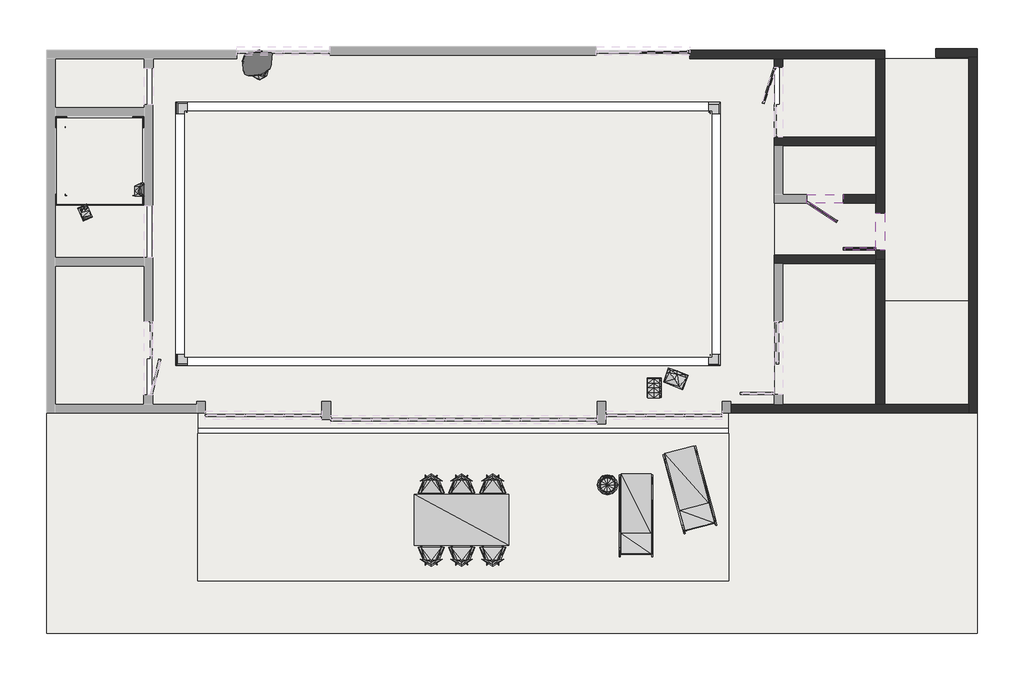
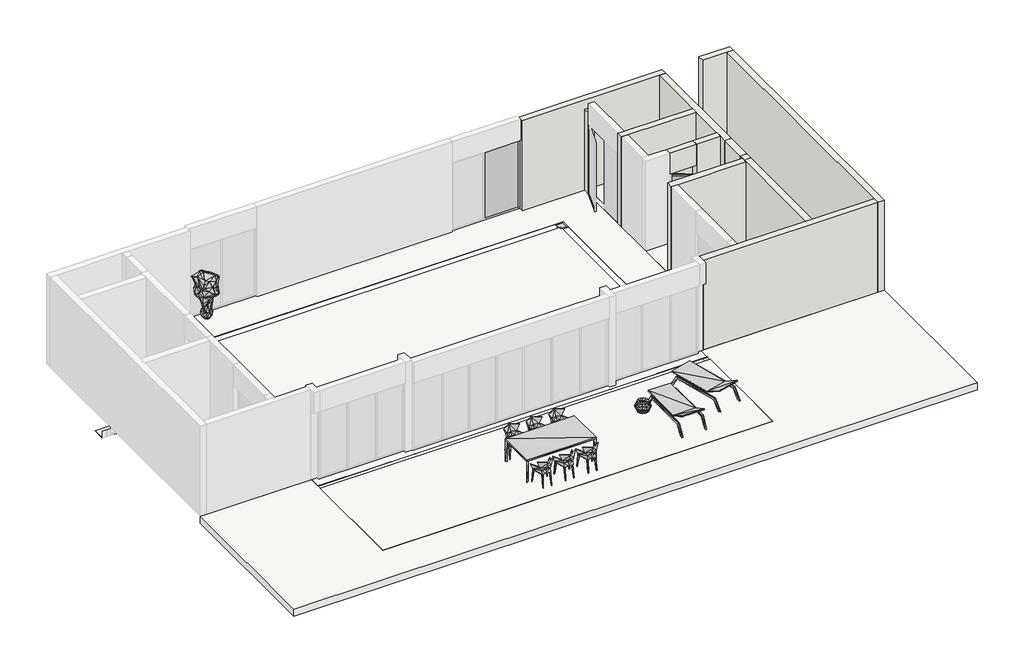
# One storey, part 3 of 3: 28 proxies, 15 geographic elements, 13 walls, 10 slabs, 9 members, 3 plates.
"""IFC4 building model written with IfcOpenShell, lengths in millimetres."""

from ifc_helpers import new_model, si_unit, frame, origin, place, context, project, spatial, polyline, outline, extrude, faceted_brep, transform, mapped, element, save
from components import generic_models_e9a23e22, generic_models_2f38e3b8, generic_models_225379f4, generic_models_951569f7, generic_models_6da5da0d, generic_models_c9809163, generic_models_70f451dc, geographic_element_de3b21ac, geographic_element_0adfae54, enscape_assetdefinition_basket_enscape_assetdefinition_b8fa298a, enscape_assetdefinition_dining_chair_06_enscape_9facff2e, enscape_assetdefinition_dining_chair_06_enscape_993760cc, enscape_assetdefinition_dining_table_08_enscape_2c41302c, enscape_assetdefinition_hanging_towel_02_enscape_f5c1a14c, enscape_assetdefinition_interior_plant_24_enscape_8646f427, enscape_assetdefinition_throw_04_enscape_assetdefinition_2e475fd9, enscape_assetdefinition_throw_enscape_assetdefinition_throw_fa2a812f, montante_rectangular_montante_cuadrado_50x50mm_acero_b99420d8, montante_rectangular_montante_cuadrado_50x50mm_acero_83e1ad39, montante_rectangular_montante_cuadrado_50x50mm_acero_28ed77df, montante_rectangular_montante_cuadrado_50x50mm_acero_05e5c9b3, montante_rectangular_montante_cuadrado_50x50mm_acero_9d536347, montante_rectangular_montante_cuadrado_50x50mm_acero_f065012c, montante_rectangular_montante_cuadrado_50x50mm_acero_bf3a267d, montante_rectangular_montante_cuadrado_50x50mm_acero_461c3306, panel_acristalado_panel_acristalado_1cm_9cf7acdf, panel_acristalado_panel_acristalado_1cm_23847091, panel_acristalado_panel_acristalado_1cm_07efc20a

model = new_model("IFC4")

# Units and contexts
model_context = context("Model", 3, world=origin())
ifc_project = project(units=[si_unit("LENGTHUNIT", "METRE", prefix="MILLI")], contexts=[model_context])

# Site, building, storey
site = spatial("IfcSite", under=ifc_project)
building = spatial("IfcBuilding", under=site)
storey = spatial("IfcBuildingStorey", under=building, Name="1_NPlaya", Elevation=0.0)

# Proxies
placement = place(None, origin())
generic_models_shape = generic_models_e9a23e22(model_context)
element("IfcBuildingElementProxy", 1, Name="ROSA GRES_116 : Pieza 116_Tresor_Java_Anti-Slip", ObjectType="ROSA GRES_116 : Pieza 116_Tresor_Java_Anti-Slip", at=placement, inside=storey, context=model_context, shape_type="MappedRepresentation", body=[
    mapped(generic_models_shape, transform((2145.5359152, 9875.0036092, -1319.9734118), x_axis=(0.0, 1.0, 0.0), y_axis=(-1.0, 0.0, 0.0), z_axis=(0.0, 0.0, 1.0))),
])
generic_models_2_shape = generic_models_2f38e3b8(model_context)
element("IfcBuildingElementProxy", 2, Name="ROSA GRES_115 : Pieza 115_Tresor_Java_Anti-Slip", ObjectType="ROSA GRES_115 : Pieza 115_Tresor_Java_Anti-Slip", at=placement, inside=storey, context=model_context, shape_type="MappedRepresentation", body=[
    mapped(generic_models_2_shape, transform((2145.5284896, 9874.9770206, -1069.9734114), x_axis=(0.0, 1.0, 0.0), y_axis=(-1.0, 0.0, 0.0), z_axis=(0.0, 0.0, 1.0))),
])
generic_models_3_shape = generic_models_225379f4(model_context)
element("IfcBuildingElementProxy", 3, Name="ROSA GRES_DL1 : Pieza DL1_Tresor_Java_Anti-Slip", ObjectType="ROSA GRES_DL1 : Pieza DL1_Tresor_Java_Anti-Slip", at=placement, inside=storey, context=model_context, shape_type="MappedRepresentation", body=[
    mapped(generic_models_3_shape, transform((7870.5093267, 7513.7270206, -239.4413919), x_axis=(0.0, 1.0, 0.0), y_axis=(-1.0, 0.0, 0.0), z_axis=(0.0, 0.0, 1.0))),
])
element("IfcBuildingElementProxy", 4, Name="ROSA GRES_DL1 : Pieza DL1_Tresor_Java_Anti-Slip", ObjectType="ROSA GRES_DL1 : Pieza DL1_Tresor_Java_Anti-Slip", at=placement, inside=storey, context=model_context, shape_type="MappedRepresentation", body=[
    mapped(generic_models_3_shape, transform((8170.5093267, 7816.7270206, -461.9413919), x_axis=(0.0, 1.0, 0.0), y_axis=(-1.0, 0.0, 0.0), z_axis=(0.0, 0.0, 1.0))),
])
element("IfcBuildingElementProxy", 5, Name="ROSA GRES_DL1 : Pieza DL1_Tresor_Java_Anti-Slip", ObjectType="ROSA GRES_DL1 : Pieza DL1_Tresor_Java_Anti-Slip", at=placement, inside=storey, context=model_context, shape_type="MappedRepresentation", body=[
    mapped(generic_models_3_shape, transform((8470.5093267, 8116.7270206, -686.9413919), x_axis=(0.0, 1.0, 0.0), y_axis=(-1.0, 0.0, 0.0), z_axis=(0.0, 0.0, 1.0))),
])
element("IfcBuildingElementProxy", 6, Name="ROSA GRES_DL1 : Pieza DL1_Tresor_Java_Anti-Slip", ObjectType="ROSA GRES_DL1 : Pieza DL1_Tresor_Java_Anti-Slip", at=placement, inside=storey, context=model_context, shape_type="MappedRepresentation", body=[
    mapped(generic_models_3_shape, transform((8770.5093267, 8421.2270206, -911.9413919), x_axis=(0.0, 1.0, 0.0), y_axis=(-1.0, 0.0, 0.0), z_axis=(0.0, 0.0, 1.0))),
])
element("IfcBuildingElementProxy", 7, Name="ROSA GRES_DL1 : Pieza DL1_Tresor_Java_Anti-Slip", ObjectType="ROSA GRES_DL1 : Pieza DL1_Tresor_Java_Anti-Slip", at=placement, inside=storey, context=model_context, shape_type="MappedRepresentation", body=[
    mapped(generic_models_3_shape, transform((9070.5093267, 8716.7270206, -1123.0), x_axis=(0.0, 1.0, 0.0), y_axis=(-1.0, 0.0, 0.0), z_axis=(0.0, 0.0, 1.0))),
])
generic_models_4_shape = generic_models_951569f7(model_context)
element("IfcBuildingElementProxy", 8, Name="ROSA GRES_DL1 : Pieza DL1_Tresor_Java_Anti-Slip", ObjectType="ROSA GRES_DL1 : Pieza DL1_Tresor_Java_Anti-Slip", at=placement, inside=storey, context=model_context, shape_type="MappedRepresentation", body=[
    mapped(generic_models_4_shape, transform((6870.5093267, 7513.7270206, -239.4413919), x_axis=(0.0, 1.0, 0.0), y_axis=(-1.0, 0.0, 0.0), z_axis=(0.0, 0.0, 1.0))),
])
element("IfcBuildingElementProxy", 9, Name="ROSA GRES_DL1 : Pieza DL1_Tresor_Java_Anti-Slip", ObjectType="ROSA GRES_DL1 : Pieza DL1_Tresor_Java_Anti-Slip", at=placement, inside=storey, context=model_context, shape_type="MappedRepresentation", body=[
    mapped(generic_models_4_shape, transform((6570.5093267, 7816.7270206, -461.9413919), x_axis=(0.0, 1.0, 0.0), y_axis=(-1.0, 0.0, 0.0), z_axis=(0.0, 0.0, 1.0))),
])
element("IfcBuildingElementProxy", 10, Name="ROSA GRES_DL1 : Pieza DL1_Tresor_Java_Anti-Slip", ObjectType="ROSA GRES_DL1 : Pieza DL1_Tresor_Java_Anti-Slip", at=placement, inside=storey, context=model_context, shape_type="MappedRepresentation", body=[
    mapped(generic_models_4_shape, transform((6270.5093267, 8116.7270206, -686.9413919), x_axis=(0.0, 1.0, 0.0), y_axis=(-1.0, 0.0, 0.0), z_axis=(0.0, 0.0, 1.0))),
])
element("IfcBuildingElementProxy", 11, Name="ROSA GRES_DL1 : Pieza DL1_Tresor_Java_Anti-Slip", ObjectType="ROSA GRES_DL1 : Pieza DL1_Tresor_Java_Anti-Slip", at=placement, inside=storey, context=model_context, shape_type="MappedRepresentation", body=[
    mapped(generic_models_4_shape, transform((5970.5093267, 8421.2270206, -911.9413919), x_axis=(0.0, 1.0, 0.0), y_axis=(-1.0, 0.0, 0.0), z_axis=(0.0, 0.0, 1.0))),
])
element("IfcBuildingElementProxy", 12, Name="ROSA GRES_DL1 : Pieza DL1_Tresor_Java_Anti-Slip", ObjectType="ROSA GRES_DL1 : Pieza DL1_Tresor_Java_Anti-Slip", at=placement, inside=storey, context=model_context, shape_type="MappedRepresentation", body=[
    mapped(generic_models_4_shape, transform((5670.5093267, 8716.7270206, -1123.0), x_axis=(0.0, 1.0, 0.0), y_axis=(-1.0, 0.0, 0.0), z_axis=(0.0, 0.0, 1.0))),
])
generic_models_5_shape = generic_models_6da5da0d(model_context)
element("IfcBuildingElementProxy", 13, Name="ROSA GRES_245 EF_Colocación en plano : Pieza 245 EF_Tresor_Java_Anti-Slip", ObjectType="ROSA GRES_245 EF_Colocación en plano : Pieza 245 EF_Tresor_Java_Anti-Slip", at=placement, inside=storey, context=model_context, shape_type="MappedRepresentation", body=[
    mapped(generic_models_5_shape, transform((13675.1591842, 7226.6819552, 0.0), x_axis=(0.0, -1.0, 0.0), y_axis=(1.0, 0.0, 0.0), z_axis=(0.0, 0.0, 1.0))),
])
element("IfcBuildingElementProxy", 14, Name="ROSA GRES_245 EF_Colocación en plano : Pieza 245 EF_Tresor_Java_Anti-Slip", ObjectType="ROSA GRES_245 EF_Colocación en plano : Pieza 245 EF_Tresor_Java_Anti-Slip", at=placement, inside=storey, context=model_context, shape_type="MappedRepresentation", body=[
    mapped(generic_models_5_shape, transform((1063.4642613, 7226.6819552, 0.0), x_axis=(-1.0, 0.0, 0.0), y_axis=(0.0, -1.0, 0.0), z_axis=(0.0, 0.0, 1.0))),
])
element("IfcBuildingElementProxy", 15, Name="ROSA GRES_245 EF_Colocación en plano : Pieza 245 EF_Tresor_Java_Anti-Slip", ObjectType="ROSA GRES_245 EF_Colocación en plano : Pieza 245 EF_Tresor_Java_Anti-Slip", at=placement, inside=storey, context=model_context, shape_type="MappedRepresentation", body=[
    mapped(generic_models_5_shape, transform((1063.4642613, 13340.147086, 0.0), x_axis=(0.0, 1.0, 0.0), y_axis=(-1.0, 0.0, 0.0), z_axis=(0.0, 0.0, 1.0))),
])
element("IfcBuildingElementProxy", 16, Name="ROSA GRES_245 EF_Colocación en plano : Pieza 245 EF_Tresor_Java_Anti-Slip", ObjectType="ROSA GRES_245 EF_Colocación en plano : Pieza 245 EF_Tresor_Java_Anti-Slip", at=placement, inside=storey, context=model_context, shape_type="MappedRepresentation", body=[
    mapped(generic_models_5_shape, transform((13676.7593267, 13339.522086, 0.0), x_axis=(1.0, 0.0, 0.0), y_axis=(0.0, 1.0, 0.0), z_axis=(0.0, 0.0, 1.0))),
])
element("IfcBuildingElementProxy", 17, Name="ROSA GRES_245 EF_Colocación en plano : Pieza 245 EF_Tresor_Java_Anti-Slip", ObjectType="ROSA GRES_245 EF_Colocación en plano : Pieza 245 EF_Tresor_Java_Anti-Slip", at=placement, inside=storey, context=model_context, shape_type="MappedRepresentation", body=[
    mapped(generic_models_5_shape, transform((-1734.4906752, 13012.2270206, 0.0), x_axis=(0.0, 1.0, 0.0), y_axis=(-1.0, 0.0, 0.0), z_axis=(0.0, 0.0, 1.0))),
])
element("IfcBuildingElementProxy", 18, Name="ROSA GRES_245 EF_Colocación en plano : Pieza 245 EF_Tresor_Java_Anti-Slip", ObjectType="ROSA GRES_245 EF_Colocación en plano : Pieza 245 EF_Tresor_Java_Anti-Slip", at=placement, inside=storey, context=model_context, shape_type="MappedRepresentation", body=[
    mapped(generic_models_5_shape, transform((323.5093238, 10940.2270335, 0.0), x_axis=(0.0, -1.0, 0.0), y_axis=(1.0, 0.0, 0.0), z_axis=(0.0, 0.0, 1.0))),
])
generic_models_6_shape = generic_models_c9809163(model_context)
element("IfcBuildingElementProxy", 19, Name="ROSA GRES_245 EF_Colocación en plano : Pieza 245 EF_Tresor_Java_Anti-Slip", ObjectType="ROSA GRES_245 EF_Colocación en plano : Pieza 245 EF_Tresor_Java_Anti-Slip", at=placement, inside=storey, context=model_context, shape_type="MappedRepresentation", body=[
    mapped(generic_models_6_shape, transform((-1734.4906752, 10940.2270335, 0.0), x_axis=(0.0, -1.0, 0.0), y_axis=(1.0, 0.0, 0.0), z_axis=(0.0, 0.0, 1.0))),
])
element("IfcBuildingElementProxy", 20, Name="ROSA GRES_245 EF_Colocación en plano : Pieza 245 EF_Tresor_Java_Anti-Slip", ObjectType="ROSA GRES_245 EF_Colocación en plano : Pieza 245 EF_Tresor_Java_Anti-Slip", at=placement, inside=storey, context=model_context, shape_type="MappedRepresentation", body=[
    mapped(generic_models_6_shape, transform((323.5093238, 13012.2270206, 0.0), x_axis=(0.0, 1.0, 0.0), y_axis=(-1.0, 0.0, 0.0), z_axis=(0.0, 0.0, 1.0))),
])
generic_models_7_shape = generic_models_70f451dc(model_context)
element("IfcBuildingElementProxy", 21, Name="ROSA GRES_040A (corte) : Pieza 040A_Tresor_Java_Anti-Slip", ObjectType="ROSA GRES_040A (corte) : Pieza 040A_Tresor_Java_Anti-Slip", at=placement, inside=storey, context=model_context, shape_type="MappedRepresentation", body=[
    mapped(generic_models_7_shape, transform((6270.5093267, 8433.7270206, -687.4462632), x_axis=(-1.0, 0.0, 0.0), y_axis=(0.0, 1.0, 0.0), z_axis=(0.0, 0.0, -1.0))),
])
element("IfcBuildingElementProxy", 22, Name="ROSA GRES_040A (corte) : Pieza 040A_Tresor_Java_Anti-Slip", ObjectType="ROSA GRES_040A (corte) : Pieza 040A_Tresor_Java_Anti-Slip", at=placement, inside=storey, context=model_context, shape_type="MappedRepresentation", body=[
    mapped(generic_models_7_shape, transform((5970.5093267, 8738.2270206, -912.4462632), x_axis=(-1.0, 0.0, 0.0), y_axis=(0.0, 1.0, 0.0), z_axis=(0.0, 0.0, -1.0))),
])
element("IfcBuildingElementProxy", 23, Name="ROSA GRES_040A (corte) : Pieza 040A_Tresor_Java_Anti-Slip", ObjectType="ROSA GRES_040A (corte) : Pieza 040A_Tresor_Java_Anti-Slip", at=placement, inside=storey, context=model_context, shape_type="MappedRepresentation", body=[
    mapped(generic_models_7_shape, transform((6570.5093267, 8133.7270206, -462.4462632), x_axis=(-1.0, 0.0, 0.0), y_axis=(0.0, 1.0, 0.0), z_axis=(0.0, 0.0, -1.0))),
])
element("IfcBuildingElementProxy", 24, Name="ROSA GRES_040A (corte) : Pieza 040A_Tresor_Java_Anti-Slip", ObjectType="ROSA GRES_040A (corte) : Pieza 040A_Tresor_Java_Anti-Slip", at=placement, inside=storey, context=model_context, shape_type="MappedRepresentation", body=[
    mapped(generic_models_7_shape, transform((6870.5093267, 7830.7270206, -239.9462632), x_axis=(-1.0, 0.0, 0.0), y_axis=(0.0, 1.0, 0.0), z_axis=(0.0, 0.0, -1.0))),
])
element("IfcBuildingElementProxy", 25, Name="ROSA GRES_040A (corte) : Pieza 040A_Tresor_Java_Anti-Slip", ObjectType="ROSA GRES_040A (corte) : Pieza 040A_Tresor_Java_Anti-Slip", at=placement, inside=storey, context=model_context, shape_type="MappedRepresentation", body=[
    mapped(generic_models_7_shape, transform((7870.5718267, 7830.7895206, -238.6962632), x_axis=(0.0, 1.0, 0.0), y_axis=(1.0, 0.0, 0.0), z_axis=(0.0, 0.0, -1.0))),
])
element("IfcBuildingElementProxy", 26, Name="ROSA GRES_040A (corte) : Pieza 040A_Tresor_Java_Anti-Slip", ObjectType="ROSA GRES_040A (corte) : Pieza 040A_Tresor_Java_Anti-Slip", at=placement, inside=storey, context=model_context, shape_type="MappedRepresentation", body=[
    mapped(generic_models_7_shape, transform((8170.5718267, 8134.4145206, -461.1962632), x_axis=(0.0, 1.0, 0.0), y_axis=(1.0, 0.0, 0.0), z_axis=(0.0, 0.0, -1.0))),
])
element("IfcBuildingElementProxy", 27, Name="ROSA GRES_040A (corte) : Pieza 040A_Tresor_Java_Anti-Slip", ObjectType="ROSA GRES_040A (corte) : Pieza 040A_Tresor_Java_Anti-Slip", at=placement, inside=storey, context=model_context, shape_type="MappedRepresentation", body=[
    mapped(generic_models_7_shape, transform((8470.8843267, 8433.7913797, -686.1962632), x_axis=(0.0, 1.0, 0.0), y_axis=(1.0, 0.0, 0.0), z_axis=(0.0, 0.0, -1.0))),
])
element("IfcBuildingElementProxy", 28, Name="ROSA GRES_040A (corte) : Pieza 040A_Tresor_Java_Anti-Slip", ObjectType="ROSA GRES_040A (corte) : Pieza 040A_Tresor_Java_Anti-Slip", at=placement, inside=storey, context=model_context, shape_type="MappedRepresentation", body=[
    mapped(generic_models_7_shape, transform((8770.6377738, 8738.4625772, -911.1962632), x_axis=(0.0, 1.0, 0.0), y_axis=(1.0, 0.0, 0.0), z_axis=(0.0, 0.0, -1.0))),
])

# Geographic elements
geographic_element_shape = geographic_element_de3b21ac(model_context)
element("IfcGeographicElement", 29, ObjectType="Enscape AssetDefinition - Decoration Collection 02 : Enscape AssetDefinition - Decoration Collection 02", at=placement, inside=storey, context=model_context, shape_type="MappedRepresentation", body=[
    mapped(geographic_element_shape, transform((-1043.7026656, 10778.6718446, 0.0), x_axis=(-0.3746065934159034, 0.927183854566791, 0.0), y_axis=(-0.927183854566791, -0.3746065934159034, 0.0), z_axis=(0.0, 0.0, 1.0))),
])
geographic_element_2_shape = geographic_element_0adfae54(model_context)
element("IfcGeographicElement", 30, ObjectType="Enscape AssetDefinition - Sunbed : Enscape AssetDefinition - Sunbed", at=placement, inside=storey, context=model_context, shape_type="MappedRepresentation", body=[
    mapped(geographic_element_2_shape, transform((11720.5093267, 3748.7270262, 0.0), x_axis=(-1.0, 0.0, 0.0), y_axis=(0.0, -1.0, 0.0), z_axis=(0.0, 0.0, 1.0))),
])
element("IfcGeographicElement", 31, ObjectType="Enscape AssetDefinition - Sunbed : Enscape AssetDefinition - Sunbed", at=placement, inside=storey, context=model_context, shape_type="MappedRepresentation", body=[
    mapped(geographic_element_2_shape, transform((12968.5093267, 4348.7270262, 0.0), x_axis=(-0.9659258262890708, -0.2588190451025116, 0.0), y_axis=(0.2588190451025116, -0.9659258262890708, 0.0), z_axis=(0.0, 0.0, 1.0))),
])
enscape_assetdefinition_basket_enscape_assetdefinition_shape = enscape_assetdefinition_basket_enscape_assetdefinition_b8fa298a(model_context)
element("IfcGeographicElement", 32, ObjectType="Enscape AssetDefinition - Basket : Enscape AssetDefinition - Basket", at=placement, inside=storey, context=model_context, shape_type="MappedRepresentation", body=[
    mapped(enscape_assetdefinition_basket_enscape_assetdefinition_shape, transform((11060.5093267, 4468.7270262, 0.0), x_axis=(1.0, 0.0, 0.0), y_axis=(0.0, 1.0, 0.0), z_axis=(0.0, 0.0, 1.0))),
])
enscape_assetdefinition_dining_chair_06_enscape_shape = enscape_assetdefinition_dining_chair_06_enscape_9facff2e(model_context)
element("IfcGeographicElement", 33, ObjectType="Enscape AssetDefinition - Dining Chair 06 : Enscape AssetDefinition - Dining Chair 06", at=placement, inside=storey, context=model_context, shape_type="MappedRepresentation", body=[
    mapped(enscape_assetdefinition_dining_chair_06_enscape_shape, transform((8400.5093267, 4468.7270262, 0.0), x_axis=(1.0, 0.0, 0.0), y_axis=(0.0, 1.0, 0.0), z_axis=(0.0, 0.0, 1.0))),
])
element("IfcGeographicElement", 34, ObjectType="Enscape AssetDefinition - Dining Chair 06 : Enscape AssetDefinition - Dining Chair 06", at=placement, inside=storey, context=model_context, shape_type="MappedRepresentation", body=[
    mapped(enscape_assetdefinition_dining_chair_06_enscape_shape, transform((7680.5093267, 4468.7270262, 0.0), x_axis=(1.0, 0.0, 0.0), y_axis=(0.0, 1.0, 0.0), z_axis=(0.0, 0.0, 1.0))),
])
element("IfcGeographicElement", 35, ObjectType="Enscape AssetDefinition - Dining Chair 06 : Enscape AssetDefinition - Dining Chair 06", at=placement, inside=storey, context=model_context, shape_type="MappedRepresentation", body=[
    mapped(enscape_assetdefinition_dining_chair_06_enscape_shape, transform((6975.7093267, 4468.7270262, 0.0), x_axis=(1.0, 0.0, 0.0), y_axis=(0.0, 1.0, 0.0), z_axis=(0.0, 0.0, 1.0))),
])
enscape_assetdefinition_dining_chair_06_enscape_2_shape = enscape_assetdefinition_dining_chair_06_enscape_993760cc(model_context)
element("IfcGeographicElement", 36, ObjectType="Enscape AssetDefinition - Dining Chair 06 : Enscape AssetDefinition - Dining Chair 06", at=placement, inside=storey, context=model_context, shape_type="MappedRepresentation", body=[
    mapped(enscape_assetdefinition_dining_chair_06_enscape_2_shape, transform((8400.5093267, 2828.7270262, 0.0), x_axis=(1.0, 0.0, 0.0), y_axis=(0.0, 1.0, 0.0), z_axis=(0.0, 0.0, 1.0))),
])
element("IfcGeographicElement", 37, ObjectType="Enscape AssetDefinition - Dining Chair 06 : Enscape AssetDefinition - Dining Chair 06", at=placement, inside=storey, context=model_context, shape_type="MappedRepresentation", body=[
    mapped(enscape_assetdefinition_dining_chair_06_enscape_2_shape, transform((7680.5093267, 2828.7270262, 0.0), x_axis=(1.0, 0.0, 0.0), y_axis=(0.0, 1.0, 0.0), z_axis=(0.0, 0.0, 1.0))),
])
element("IfcGeographicElement", 38, ObjectType="Enscape AssetDefinition - Dining Chair 06 : Enscape AssetDefinition - Dining Chair 06", at=placement, inside=storey, context=model_context, shape_type="MappedRepresentation", body=[
    mapped(enscape_assetdefinition_dining_chair_06_enscape_2_shape, transform((6975.7093267, 2828.7270262, 0.0), x_axis=(1.0, 0.0, 0.0), y_axis=(0.0, 1.0, 0.0), z_axis=(0.0, 0.0, 1.0))),
])
enscape_assetdefinition_dining_table_08_enscape_shape = enscape_assetdefinition_dining_table_08_enscape_2c41302c(model_context)
element("IfcGeographicElement", 39, ObjectType="Enscape AssetDefinition - Dining Table 08 : Enscape AssetDefinition - Dining Table 08", at=placement, inside=storey, context=model_context, shape_type="MappedRepresentation", body=[
    mapped(enscape_assetdefinition_dining_table_08_enscape_shape, transform((7679.5093267, 3653.7270241, 0.0), x_axis=(0.0, 1.0, 0.0), y_axis=(-1.0, 0.0, 0.0), z_axis=(0.0, 0.0, 1.0))),
])
enscape_assetdefinition_hanging_towel_02_enscape_shape = enscape_assetdefinition_hanging_towel_02_enscape_f5c1a14c(model_context)
element("IfcGeographicElement", 40, ObjectType="Enscape AssetDefinition - Hanging Towel 02 : Enscape AssetDefinition - Hanging Towel 02", at=placement, inside=storey, context=model_context, shape_type="MappedRepresentation", body=[
    mapped(enscape_assetdefinition_hanging_towel_02_enscape_shape, transform((333.5093229, 11320.7219857, 1500.0), x_axis=(0.0, -1.0, 0.0), y_axis=(1.0, 0.0, 0.0), z_axis=(0.0, 0.0, 1.0))),
])
enscape_assetdefinition_interior_plant_24_enscape_shape = enscape_assetdefinition_interior_plant_24_enscape_8646f427(model_context)
element("IfcGeographicElement", 41, ObjectType="Enscape AssetDefinition - Interior Plant 24 : Enscape AssetDefinition - Interior Plant 24", at=placement, inside=storey, context=model_context, shape_type="MappedRepresentation", body=[
    mapped(enscape_assetdefinition_interior_plant_24_enscape_shape, transform((2951.3996279, 14259.8509934, 0.0), x_axis=(-0.8885509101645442, -0.45877802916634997, 0.0), y_axis=(0.45877802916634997, -0.8885509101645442, 0.0), z_axis=(0.0, 0.0, 1.0))),
])
enscape_assetdefinition_throw_04_enscape_assetdefinition_shape = enscape_assetdefinition_throw_04_enscape_assetdefinition_2e475fd9(model_context)
element("IfcGeographicElement", 42, ObjectType="Enscape AssetDefinition - Throw 04 : Enscape AssetDefinition - Throw 04", at=placement, inside=storey, context=model_context, shape_type="MappedRepresentation", body=[
    mapped(enscape_assetdefinition_throw_04_enscape_assetdefinition_shape, transform((12140.5093267, 6713.727027, 0.0), x_axis=(-1.0, 0.0, 0.0), y_axis=(0.0, -1.0, 0.0), z_axis=(0.0, 0.0, 1.0))),
])
enscape_assetdefinition_throw_enscape_assetdefinition_throw_shape = enscape_assetdefinition_throw_enscape_assetdefinition_throw_fa2a812f(model_context)
element("IfcGeographicElement", 43, ObjectType="Enscape AssetDefinition - Throw : Enscape AssetDefinition - Throw", at=placement, inside=storey, context=model_context, shape_type="MappedRepresentation", body=[
    mapped(enscape_assetdefinition_throw_enscape_assetdefinition_throw_shape, transform((12628.7846367, 6923.7123143, 0.0), x_axis=(0.35836794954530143, 0.9335804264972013, 0.0), y_axis=(-0.9335804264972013, 0.35836794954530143, 0.0), z_axis=(0.0, 0.0, 1.0))),
])

# Members
montante_rectangular_montante_cuadrado_50x50mm_acero_shape = montante_rectangular_montante_cuadrado_50x50mm_acero_b99420d8(model_context)
element("IfcMember", 44, ObjectType="Montante rectangular : Montante cuadrado 50x50mm_Acero", at=placement, inside=storey, context=model_context, shape_type="MappedRepresentation", body=[
    mapped(montante_rectangular_montante_cuadrado_50x50mm_acero_shape, transform((12963.3610627, 14478.7270206, 0.0), x_axis=(1.0, 0.0, 0.0), y_axis=(0.0, -1.0, 0.0), z_axis=(0.0, 0.0, -1.0))),
])
element("IfcMember", 45, ObjectType="Montante rectangular : Montante cuadrado 50x50mm_Acero", at=placement, inside=storey, context=model_context, shape_type="MappedRepresentation", body=[
    mapped(montante_rectangular_montante_cuadrado_50x50mm_acero_shape, transform((16365.4609548, 10546.5720247, 0.0), x_axis=(0.8386705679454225, -0.5446390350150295, 0.0), y_axis=(-0.5446390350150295, -0.8386705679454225, 0.0), z_axis=(0.0, 0.0, -1.0))),
])
montante_rectangular_montante_cuadrado_50x50mm_acero_2_shape = montante_rectangular_montante_cuadrado_50x50mm_acero_83e1ad39(model_context)
element("IfcMember", 46, ObjectType="Montante rectangular : Montante cuadrado 50x50mm_Acero", at=placement, inside=storey, context=model_context, shape_type="MappedRepresentation", body=[
    mapped(montante_rectangular_montante_cuadrado_50x50mm_acero_2_shape, transform((14915.5093267, 14148.5060359, 2300.0), x_axis=(0.30901699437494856, 0.9510565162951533, 0.0), y_axis=(-0.9510565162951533, 0.30901699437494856, 0.0), z_axis=(0.0, 0.0, 1.0))),
])
montante_rectangular_montante_cuadrado_50x50mm_acero_3_shape = montante_rectangular_montante_cuadrado_50x50mm_acero_28ed77df(model_context)
element("IfcMember", 47, ObjectType="Montante rectangular : Montante cuadrado 50x50mm_Acero", at=placement, inside=storey, context=model_context, shape_type="MappedRepresentation", body=[
    mapped(montante_rectangular_montante_cuadrado_50x50mm_acero_3_shape, transform((16323.5274264, 10573.8039764, 2300.0), x_axis=(0.0, 0.0, 1.0), y_axis=(-0.5446390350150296, -0.8386705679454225, 0.0), z_axis=(0.8386705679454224, -0.5446390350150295, 0.0))),
])
montante_rectangular_montante_cuadrado_50x50mm_acero_4_shape = montante_rectangular_montante_cuadrado_50x50mm_acero_05e5c9b3(model_context)
element("IfcMember", 48, ObjectType="Montante rectangular : Montante cuadrado 50x50mm_Acero", at=placement, inside=storey, context=model_context, shape_type="MappedRepresentation", body=[
    mapped(montante_rectangular_montante_cuadrado_50x50mm_acero_4_shape, transform((16573.2510888, 9914.6760334, 2300.0), x_axis=(0.0, 0.0, 1.0), y_axis=(0.0, 1.0, 0.0), z_axis=(-1.0, 0.0, 0.0))),
])
montante_rectangular_montante_cuadrado_50x50mm_acero_5_shape = montante_rectangular_montante_cuadrado_50x50mm_acero_9d536347(model_context)
element("IfcMember", 49, ObjectType="Montante rectangular : Montante cuadrado 50x50mm_Acero", at=placement, inside=storey, context=model_context, shape_type="MappedRepresentation", body=[
    mapped(montante_rectangular_montante_cuadrado_50x50mm_acero_5_shape, transform((17230.5093243, 9914.6760334, 0.0), x_axis=(0.0, 0.0, -1.0), y_axis=(0.0, 1.0, 0.0), z_axis=(1.0, 0.0, 0.0))),
])
montante_rectangular_montante_cuadrado_50x50mm_acero_6_shape = montante_rectangular_montante_cuadrado_50x50mm_acero_f065012c(model_context)
element("IfcMember", 50, ObjectType="Montante rectangular : Montante cuadrado 50x50mm_Acero", at=placement, inside=storey, context=model_context, shape_type="MappedRepresentation", body=[
    mapped(montante_rectangular_montante_cuadrado_50x50mm_acero_6_shape, transform((16523.2510888, 9914.6760334, 0.0), x_axis=(-1.0, 0.0, 0.0), y_axis=(0.0, 1.0, 0.0), z_axis=(0.0, 0.0, -1.0))),
])
montante_rectangular_montante_cuadrado_50x50mm_acero_7_shape = montante_rectangular_montante_cuadrado_50x50mm_acero_bf3a267d(model_context)
element("IfcMember", 51, ObjectType="Montante rectangular : Montante cuadrado 50x50mm_Acero", at=placement, inside=storey, context=model_context, shape_type="MappedRepresentation", body=[
    mapped(montante_rectangular_montante_cuadrado_50x50mm_acero_7_shape, transform((17280.5093243, 9914.6760334, 2300.0), x_axis=(1.0, 0.0, 0.0), y_axis=(0.0, 1.0, 0.0), z_axis=(0.0, 0.0, 1.0))),
])
montante_rectangular_montante_cuadrado_50x50mm_acero_8_shape = montante_rectangular_montante_cuadrado_50x50mm_acero_461c3306(model_context)
element("IfcMember", 52, ObjectType="Montante rectangular : Montante cuadrado 50x50mm_Acero", at=placement, inside=storey, context=model_context, shape_type="MappedRepresentation", body=[
    mapped(montante_rectangular_montante_cuadrado_50x50mm_acero_8_shape, transform((14900.058477, 14100.9532101, 0.0), x_axis=(0.0, 0.0, -1.0), y_axis=(-0.9510565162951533, 0.30901699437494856, 0.0), z_axis=(0.30901699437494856, 0.9510565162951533, 0.0))),
])

# Plates
panel_acristalado_panel_acristalado_1cm_shape = panel_acristalado_panel_acristalado_1cm_9cf7acdf(model_context)
element("IfcPlate", 53, ObjectType="Panel acristalado : Panel acristalado 1cm", at=placement, inside=storey, context=model_context, shape_type="MappedRepresentation", body=[
    mapped(panel_acristalado_panel_acristalado_1cm_shape, transform((16021.606022, 10769.874029, 50.0), x_axis=(0.8386705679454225, -0.5446390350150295, 0.0), y_axis=(0.5446390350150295, 0.8386705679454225, 0.0), z_axis=(0.0, 0.0, 1.0))),
])
panel_acristalado_panel_acristalado_1cm_2_shape = panel_acristalado_panel_acristalado_1cm_23847091(model_context)
element("IfcPlate", 54, ObjectType="Panel acristalado : Panel acristalado 1cm", at=placement, inside=storey, context=model_context, shape_type="MappedRepresentation", body=[
    mapped(panel_acristalado_panel_acristalado_1cm_2_shape, transform((16901.8802065, 9914.6760334, 50.0), x_axis=(-1.0, 0.0, 0.0), y_axis=(0.0, -1.0, 0.0), z_axis=(0.0, 0.0, 1.0))),
])
panel_acristalado_panel_acristalado_1cm_3_shape = panel_acristalado_panel_acristalado_1cm_07efc20a(model_context)
element("IfcPlate", 55, ObjectType="Panel acristalado : Panel acristalado 1cm", at=placement, inside=storey, context=model_context, shape_type="MappedRepresentation", body=[
    mapped(panel_acristalado_panel_acristalado_1cm_3_shape, transform((12381.3610621, 14478.7270206, 50.0), x_axis=(1.0, 0.0, 0.0), y_axis=(0.0, 1.0, 0.0), z_axis=(0.0, 0.0, 1.0))),
])

# Slabs
element("IfcSlab", 56, ObjectType="Pieza 199_Patrón 1/3_Alma_Forest_Anti-Slip", at=placement, inside=storey, context=model_context, shape_type="SweptSolid", body=[
    extrude(outline(polyline([(2474.3909695, 14343.7270206), (2474.3909695, 14478.7270241), (4638.3909717, 14478.7270241), (4638.3909717, 14428.7270241), (10798.050338, 14428.7270241), (10798.050338, 14478.7270206), (12961.8610622, 14478.7270206), (12961.8610622, 14343.7270206), (14919.0093262, 14343.7270206), (14919.0093262, 14163.7270237), (14919.0093262, 6333.7270206), (13719.0093262, 6333.7270206), (13719.0093262, 6133.7270206), (13869.0093252, 6133.7270206), (13869.0093252, 5788.7270241), (13719.0093262, 5788.7270241), (10799.0093262, 5788.7270241), (4638.3909737, 5788.7270241), (1719.0093283, 5788.7270241), (1569.0093262, 5788.7270241), (1569.0093262, 6133.7270206), (1719.0093283, 6133.7270206), (1719.0093283, 6333.7270206), (519.0093262, 6333.7270206), (519.0093262, 6549.7270241), (519.0093262, 13277.7270206), (519.0093262, 14343.7270206), (2474.3909695, 14343.7270206)]), holes=[polyline([(13670.5093267, 13344.522086), (1059.7142613, 13344.522086), (1059.7142613, 7233.7270206), (13670.5093267, 7233.7270206), (13670.5093267, 13344.522086)])]), frame((0.0, 0.0, -9.0), z_axis=(0.0, 0.0, 1.0), x_axis=(1.0, 0.0, 0.0)), (0.0, 0.0, 1.0), 9.0),
])
element("IfcSlab", 57, ObjectType="Pieza 199_Patrón 1/3_Alma_Forest_Anti-Slip", at=placement, inside=storey, context=model_context, shape_type="SweptSolid", body=[
    extrude(outline(polyline([(13870.5093267, 5658.7270241), (13870.5093267, 2238.7270282), (1570.5093267, 2238.7270282), (1570.5093267, 5658.7270241), (13870.5093267, 5658.7270241)])), frame((0.0, 0.0, -9.0), z_axis=(0.0, 0.0, 1.0), x_axis=(1.0, 0.0, 0.0)), (0.0, 0.0, 1.0), 9.0),
])
element("IfcSlab", 58, ObjectType="Pieza 316_Patrón 1/3_Tresor_Java_Anti-Slip", at=placement, inside=storey, context=model_context, shape_type="SweptSolid", body=[
    extrude(outline(polyline([(2145.5093267, 9874.9770206), (2145.5093267, 7513.7270206), (1906.5359152, 7513.7270206), (1906.5359152, 9874.9770206), (2145.5093267, 9874.9770206)])), frame((0.0, 0.0, -1038.9734114), z_axis=(0.0, 0.0, 1.0), x_axis=(1.0, 0.0, 0.0)), (0.0, 0.0, 1.0), 9.0),
])
element("IfcSlab", 59, ObjectType="Pieza 316_Patrón 1/3_Tresor_Java_Anti-Slip", at=placement, inside=storey, context=model_context, shape_type="SweptSolid", body=[
    extrude(outline(polyline([(1836.5093267, 9874.9770206), (1836.5093267, 7514.4338077), (1495.5151617, 7514.4338077), (1495.5151617, 9874.9770206), (1836.5093267, 9874.9770206)])), frame((0.0, 0.0, -458.9734114), z_axis=(0.0, 0.0, 1.0), x_axis=(1.0, 0.0, 0.0)), (0.0, 0.0, 1.0), 9.0),
])
element("IfcSlab", 60, ObjectType="GENÉRICO_AGUA", at=placement, inside=storey, context=model_context, shape_type="SweptSolid", body=[
    extrude(outline(polyline([(1270.5093267, 13133.7270206), (13470.5093267, 13133.7270206), (13470.5093267, 7433.7270206), (1270.5093267, 7433.7270206), (1270.5093267, 13133.7270206)])), frame((0.0, 0.0, -1.0), z_axis=(0.0, 0.0, 1.0), x_axis=(1.0, 0.0, 0.0)), (0.0, 0.0, 1.0), 1.0),
])
element("IfcSlab", 61, ObjectType="Pieza 316_Patrón 1/3_Tresor_Java_Anti-Slip", at=placement, inside=storey, context=model_context, shape_type="SweptSolid", body=[
    extrude(outline(polyline([(323.5093229, 14343.7270206), (323.5093229, 14127.7270241), (385.5093267, 14127.7270241), (385.5093267, 13278.7270282), (323.5093229, 13278.7270282), (323.5093229, 13212.2270206), (-1734.4906752, 13212.2270206), (-1734.4906752, 14343.7270206), (323.5093229, 14343.7270206)])), frame((0.0, 0.0, -9.0), z_axis=(0.0, 0.0, 1.0), x_axis=(1.0, 0.0, 0.0)), (0.0, 0.0, 1.0), 9.0),
    extrude(outline(polyline([(-1734.4906752, 10938.7270282), (385.5093267, 10938.7270282), (385.5093267, 9735.7270206), (323.5093229, 9735.7270206), (-1734.4906752, 9735.7270206), (-1734.4906752, 10938.7270282)])), frame((0.0, 0.0, -9.0), z_axis=(0.0, 0.0, 1.0), x_axis=(1.0, 0.0, 0.0)), (0.0, 0.0, 1.0), 9.0),
    extrude(outline(polyline([(320.075871, 9535.7270206), (320.075871, 8249.7270206), (519.2079479, 8249.7270206), (519.2079479, 7399.7270206), (384.2079479, 7399.7270206), (384.2079479, 6549.7270206), (320.075871, 6549.7270206), (320.075871, 6333.7270206), (-1734.4906752, 6333.7270206), (-1734.4906752, 9535.7270206), (320.075871, 9535.7270206)])), frame((0.0, 0.0, -9.0), z_axis=(0.0, 0.0, 1.0), x_axis=(1.0, 0.0, 0.0)), (0.0, 0.0, 1.0), 9.0),
    extrude(outline(polyline([(17280.5093243, 14343.7270206), (17280.5093243, 12527.7270206), (15120.5093267, 12527.7270206), (14919.0093262, 12527.7270206), (14919.0093262, 13277.7270206), (15055.5093267, 13277.7270206), (15055.5093267, 14148.5060359), (15120.5093267, 14148.5060359), (15120.5093267, 14343.7270206), (17280.5093243, 14343.7270206)])), frame((0.0, 0.0, -9.0), z_axis=(0.0, 0.0, 1.0), x_axis=(1.0, 0.0, 0.0)), (0.0, 0.0, 1.0), 9.0),
    extrude(outline(polyline([(17280.5093243, 12327.7270206), (17280.5093243, 11193.1760334), (16523.2510888, 11193.1760334), (16523.2510888, 10993.1760334), (17280.5093243, 10993.1760334), (17280.5093243, 10765.6760334), (17480.5093243, 10765.6760334), (17480.5093243, 14343.7270206), (19431.0093238, 14343.7270206), (19431.0093238, 8738.2270206), (17480.5093243, 8738.2270206), (17480.5093243, 9914.6760334), (17280.5093243, 9914.6760334), (17280.5093243, 9794.6760334), (14919.0093267, 9794.6760334), (14919.0093267, 10993.1760334), (15677.7510891, 10993.1760334), (15677.7510891, 11193.1760334), (15119.0093262, 11193.1760334), (15119.0093262, 12327.7270206), (17280.5093243, 12327.7270206)])), frame((0.0, 0.0, -9.0), z_axis=(0.0, 0.0, 1.0), x_axis=(1.0, 0.0, 0.0)), (0.0, 0.0, 1.0), 9.0),
    extrude(outline(polyline([(17280.5093243, 9594.6760334), (17280.5093243, 6333.7270206), (15119.0093262, 6333.7270206), (15119.0093262, 6558.7270206), (14919.0093262, 6558.7270206), (14919.0093262, 8251.628904), (15119.0093262, 8251.628904), (15119.0093262, 9594.6760334), (17280.5093243, 9594.6760334)])), frame((0.0, 0.0, -9.0), z_axis=(0.0, 0.0, 1.0), x_axis=(1.0, 0.0, 0.0)), (0.0, 0.0, 1.0), 9.0),
])
element("IfcSlab", 62, ObjectType="Pieza 316_Patrón 1/3_Tresor_Java_Anti-Slip", at=placement, inside=storey, context=model_context, shape_type="SweptSolid", body=[
    extrude(outline(polyline([(38.5093238, 12728.2027342), (38.5093238, 12329.7219857), (-1450.4663888, 12329.7219857), (-1450.4663888, 12728.2027342), (38.5093238, 12728.2027342)])), frame((0.0, 0.0, -1319.0), z_axis=(0.0, 0.0, 1.0), x_axis=(1.0, 0.0, 0.0)), (0.0, 0.0, 1.0), 9.0),
])
element("IfcSlab", 63, ObjectType="GENÉRICO_LOSA 20 cm", at=placement, inside=storey, context=model_context, shape_type="SweptSolid", body=[
    extrude(outline(polyline([(19431.0093238, 8738.2270206), (19431.0093238, 6333.7270206), (17480.5093243, 6333.7270206), (17480.5093243, 8738.2270206), (19431.0093238, 8738.2270206)])), frame((0.0, 0.0, -200.0), z_axis=(0.0, 0.0, 1.0), x_axis=(1.0, 0.0, 0.0)), (0.0, 0.0, 1.0), 200.0),
])
element("IfcSlab", 64, ObjectType="GENÉRICO_HIERBA", at=placement, inside=storey, context=model_context, shape_type="SweptSolid", body=[
    extrude(outline(polyline([(19631.0093238, 6133.7270206), (19631.0093238, 1031.2175737), (-1934.4906752, 1031.2175737), (-1934.4906752, 6133.7270206), (1570.5093267, 6133.7270206), (1570.5093267, 2238.7270282), (13869.0093252, 2238.7270282), (13869.0093252, 6133.7270206), (19631.0093238, 6133.7270206)])), frame((0.0, 0.0, -231.0), z_axis=(0.0, 0.0, 1.0), x_axis=(1.0, 0.0, 0.0)), (0.0, 0.0, 1.0), 231.0),
])
element("IfcSlab", 65, ObjectType="GENÉRICO_AGUA", at=placement, inside=storey, context=model_context, shape_type="SweptSolid", body=[
    extrude(outline(polyline([(-1693.1237742, 12970.8601196), (282.1424228, 12970.8601196), (282.1424228, 10981.5939345), (-1693.1237742, 10981.5939345), (-1693.1237742, 12970.8601196)])), frame((0.0, 0.0, -1.0), z_axis=(0.0, 0.0, 1.0), x_axis=(1.0, 0.0, 0.0)), (0.0, 0.0, 1.0), 1.0),
])

# Walls
element("IfcWall", 66, ObjectType="GENÉRICO_MURO BASE 20 cm", at=placement, inside=storey, context=model_context, shape_type="Brep", body=[
    faceted_brep([(12963.3610627, 14343.7270206, 0.0), (14920.5093267, 14343.7270206, 0.0), (15120.5093267, 14343.7270206, 0.0), (17280.5093243, 14343.7270206, 0.0), (17480.5093243, 14343.7270206, 0.0), (17480.5093243, 14343.7270206, 3000.0), (17280.5093243, 14343.7270206, 3000.0), (12963.3610627, 14343.7270206, 3000.0), (12963.3610627, 14543.7270206, 0.0), (12963.3610627, 14543.7270206, 3000.0), (17480.5093243, 14543.7270206, 3000.0), (17480.5093243, 14543.7270206, 0.0), (12963.3610627, 14428.7270241, 3000.0)], [[[0, 1, 2, 3, 4, 5, 6, 7]], [[8, 9, 10, 11]], [[4, 3, 2, 1, 0, 8, 11]], [[7, 6, 5, 10, 9, 12]], [[0, 7, 12, 9, 8]], [[5, 4, 11, 10]]]),
])
element("IfcWall", 67, ObjectType="GENÉRICO_MURO BASE 20 cm", at=placement, inside=storey, context=model_context, shape_type="Brep", body=[
    faceted_brep([(18667.4153592, 14378.7270206, 0.0), (19431.0093238, 14378.7270206, 0.0), (19631.0093238, 14378.7270206, 0.0), (19631.0093238, 14378.7270206, 3000.0), (19431.0093238, 14378.7270206, 3000.0), (18667.4153592, 14378.7270206, 3000.0), (18667.4153592, 14578.7270206, 0.0), (18667.4153592, 14578.7270206, 3000.0), (19631.0093238, 14578.7270206, 3000.0), (19631.0093238, 14578.7270206, 0.0)], [[[0, 1, 2, 3, 4, 5]], [[6, 7, 8, 9]], [[2, 1, 0, 6, 9]], [[5, 4, 3, 8, 7]], [[0, 5, 7, 6]], [[3, 2, 9, 8]]]),
])
element("IfcWall", 68, ObjectType="GENÉRICO_MURO BASE 20 cm", at=placement, inside=storey, context=model_context, shape_type="Brep", body=[
    faceted_brep([(19431.0093238, 14378.7270206, 0.0), (19431.0093238, 6333.7270206, 0.0), (19431.0093238, 6133.7270206, 0.0), (19431.0093238, 6133.7270206, 3000.0), (19431.0093238, 6333.7270206, 3000.0), (19431.0093238, 14378.7270206, 3000.0), (19631.0093238, 14378.7270206, 0.0), (19631.0093238, 14378.7270206, 3000.0), (19631.0093238, 6133.7270206, 3000.0), (19631.0093238, 6133.7270206, 0.0)], [[[0, 1, 2, 3, 4, 5]], [[6, 7, 8, 9]], [[2, 1, 0, 6, 9]], [[5, 4, 3, 8, 7]], [[0, 5, 7, 6]], [[3, 2, 9, 8]]]),
])
element("IfcWall", 69, ObjectType="GENÉRICO_MURO BASE 20 cm", at=placement, inside=storey, context=model_context, shape_type="Brep", body=[
    faceted_brep([(19431.0093238, 6333.7270206, 0.0), (17480.5093243, 6333.7270206, 0.0), (17280.5093243, 6333.7270206, 0.0), (15119.0093267, 6333.7270206, 0.0), (14919.0093267, 6333.7270206, 0.0), (13920.5093267, 6333.7270206, 0.0), (13920.5093267, 6333.7270206, 3000.0), (14919.0093267, 6333.7270206, 3000.0), (15119.0093267, 6333.7270206, 3000.0), (17280.5093243, 6333.7270206, 3000.0), (17480.5093243, 6333.7270206, 3000.0), (19431.0093238, 6333.7270206, 3000.0), (19431.0093238, 6133.7270206, 0.0), (19431.0093238, 6133.7270206, 3000.0), (13920.5093267, 6133.7270206, 3000.0), (13920.5093267, 6133.7270206, 2300.0), (13920.5093267, 6133.7270206, 0.0)], [[[0, 1, 2, 3, 4, 5, 6, 7, 8, 9, 10, 11]], [[12, 13, 14, 15, 16]], [[5, 4, 3, 2, 1, 0, 12, 16]], [[11, 10, 9, 8, 7, 6, 14, 13]], [[0, 11, 13, 12]], [[6, 5, 16, 15, 14]]]),
])
element("IfcWall", 70, ObjectType="GENÉRICO_MURO BASE 20 cm", at=placement, inside=storey, context=model_context, shape_type="Brep", body=[
    faceted_brep([(17480.5093243, 6333.7270206, 0.0), (17480.5093243, 9694.6760334, 0.0), (17480.5093243, 9694.6760334, 3000.0), (17480.5093243, 6333.7270206, 3000.0), (17280.5093243, 6333.7270206, 0.0), (17280.5093243, 6333.7270206, 3000.0), (17280.5093243, 9594.6760334, 3000.0), (17280.5093243, 9694.6760334, 3000.0), (17280.5093243, 9694.6760334, 0.0), (17280.5093243, 9594.6760334, 0.0)], [[[0, 1, 2, 3]], [[4, 5, 6, 7, 8, 9]], [[1, 0, 4, 9, 8]], [[2, 1, 8, 7]], [[3, 2, 7, 6, 5]], [[0, 3, 5, 4]]]),
])
element("IfcWall", 71, ObjectType="GENÉRICO_MURO BASE 20 cm", at=placement, inside=storey, context=model_context, shape_type="Brep", body=[
    faceted_brep([(14919.0093262, 9594.6760334, 0.0), (15119.0093262, 9594.6760334, 0.0), (17280.5093243, 9594.6760334, 0.0), (17280.5093243, 9594.6760334, 3000.0), (15119.0093262, 9594.6760334, 3000.0), (14919.0093262, 9594.6760334, 3000.0), (14919.0093262, 9794.6760334, 0.0), (14919.0093262, 9794.6760334, 3000.0), (17280.5093243, 9794.6760334, 3000.0), (17280.5093243, 9794.6760334, 0.0), (17280.5093243, 9694.6760334, 0.0), (17280.5093243, 9694.6760334, 3000.0)], [[[0, 1, 2, 3, 4, 5]], [[6, 7, 8, 9]], [[2, 1, 0, 6, 9, 10]], [[5, 4, 3, 11, 8, 7]], [[0, 5, 7, 6]], [[3, 2, 10, 9, 8, 11]]]),
])
element("IfcWall", 72, ObjectType="GENÉRICO_MURO BASE 20 cm", at=placement, inside=storey, context=model_context, shape_type="Brep", body=[
    faceted_brep([(17480.5093243, 10765.6760334, 0.0), (17480.5093243, 14343.7270206, 0.0), (17480.5093243, 14343.7270206, 3000.0), (17480.5093243, 10765.6760334, 3000.0), (17480.5093243, 10765.6760334, 2300.0), (17280.5093243, 10765.6760334, 0.0), (17280.5093243, 10765.6760334, 2300.0), (17280.5093243, 10765.6760334, 3000.0), (17280.5093243, 10993.1760334, 3000.0), (17280.5093243, 11193.1760334, 3000.0), (17280.5093243, 12327.7270206, 3000.0), (17280.5093243, 12527.7270206, 3000.0), (17280.5093243, 14343.7270206, 3000.0), (17280.5093243, 14343.7270206, 0.0), (17280.5093243, 12527.7270206, 0.0), (17280.5093243, 12327.7270206, 0.0), (17280.5093243, 11193.1760334, 0.0), (17280.5093243, 10993.1760334, 0.0)], [[[0, 1, 2, 3, 4]], [[5, 6, 7, 8, 9, 10, 11, 12, 13, 14, 15, 16, 17]], [[1, 0, 5, 17, 16, 15, 14, 13]], [[3, 2, 12, 11, 10, 9, 8, 7]], [[0, 4, 3, 7, 6, 5]], [[2, 1, 13, 12]]]),
])
element("IfcWall", 73, ObjectType="GENÉRICO_MURO BASE 20 cm", at=placement, inside=storey, context=model_context, shape_type="Brep", body=[
    faceted_brep([(14919.0093262, 12327.7270206, 3000.0), (14919.0093262, 12327.7270206, 0.0), (15119.0093262, 12327.7270206, 0.0), (17280.5093243, 12327.7270206, 0.0), (17280.5093243, 12327.7270206, 3000.0), (15119.0093262, 12327.7270206, 3000.0), (14919.0093262, 12527.7270206, 0.0), (14919.0093262, 12527.7270206, 3000.0), (14920.5093267, 12527.7270206, 3000.0), (15120.5093267, 12527.7270206, 3000.0), (17280.5093243, 12527.7270206, 3000.0), (17280.5093243, 12527.7270206, 0.0)], [[[0, 1, 2, 3, 4, 5]], [[6, 7, 8, 9, 10, 11]], [[3, 2, 1, 6, 11]], [[0, 5, 4, 10, 9, 8, 7]], [[4, 3, 11, 10]], [[0, 7, 6, 1]]]),
])
element("IfcWall", 74, ObjectType="GENÉRICO_MURO BASE 20 cm", at=placement, inside=storey, context=model_context, shape_type="Brep", body=[
    faceted_brep([(17280.5093243, 11193.1760334, 0.0), (16523.2510888, 11193.1760334, 0.0), (16523.2510888, 11193.1760334, 2300.0), (16523.2510888, 11193.1760334, 3000.0), (17280.5093243, 11193.1760334, 3000.0), (17280.5093243, 10993.1760334, 0.0), (17280.5093243, 10993.1760334, 3000.0), (16523.2510888, 10993.1760334, 3000.0), (16523.2510888, 10993.1760334, 2300.0), (16523.2510888, 10993.1760334, 0.0)], [[[0, 1, 2, 3, 4]], [[5, 6, 7, 8, 9]], [[1, 0, 5, 9]], [[3, 2, 1, 9, 8, 7]], [[4, 3, 7, 6]], [[0, 4, 6, 5]]]),
])
element("IfcWall", 75, ObjectType="GENÉRICO_MURO BASE 20 cm", at=placement, inside=storey, context=model_context, shape_type="Brep", body=[
    faceted_brep([(14920.5093267, 14343.7270206, 0.0), (14920.5093267, 14148.7270206, 0.0), (14920.5093267, 14148.7270206, 2300.0), (14920.5093267, 14148.7270206, 2700.0), (14920.5093267, 14343.7270206, 2700.0), (15120.5093267, 14343.7270206, 0.0), (15120.5093267, 14343.7270206, 2700.0), (15120.5093267, 14148.7270206, 2700.0), (15120.5093267, 14148.7270206, 2300.0), (15120.5093267, 14148.7270206, 0.0)], [[[0, 1, 2, 3, 4]], [[5, 6, 7, 8, 9]], [[1, 0, 5, 9]], [[3, 2, 1, 9, 8, 7]], [[4, 3, 7, 6]], [[0, 4, 6, 5]]]),
])
element("IfcWall", 76, ObjectType="GENÉRICO_MURO BASE 20 cm", at=placement, inside=storey, context=model_context, shape_type="Brep", body=[
    faceted_brep([(17480.5093243, 9694.6760334, 0.0), (17480.5093243, 9914.6760334, 0.0), (17480.5093243, 9914.6760334, 2300.0), (17480.5093243, 9914.6760334, 3000.0), (17480.5093243, 9694.6760334, 3000.0), (17280.5093243, 9694.6760334, 0.0), (17280.5093243, 9694.6760334, 3000.0), (17280.5093243, 9794.6760334, 3000.0), (17280.5093243, 9914.6760334, 3000.0), (17280.5093243, 9914.6760334, 2300.0), (17280.5093243, 9914.6760334, 0.0), (17280.5093243, 9794.6760334, 0.0)], [[[0, 1, 2, 3, 4]], [[5, 6, 7, 8, 9, 10, 11]], [[1, 0, 5, 11, 10]], [[3, 2, 1, 10, 9, 8]], [[4, 3, 8, 7, 6]], [[0, 4, 6, 5]]]),
])
element("IfcWall", 77, ObjectType="GENÉRICO_MURO BASE 20 cm", at=placement, inside=storey, context=model_context, shape_type="SweptSolid", body=[
    extrude(outline(polyline([(17280.5093243, 9914.6760334), (17280.5093243, 10765.6760334), (17480.5093243, 10765.6760334), (17480.5093243, 9914.6760334), (17280.5093243, 9914.6760334)])), frame((0.0, 0.0, 2300.0), z_axis=(0.0, 0.0, 1.0), x_axis=(1.0, 0.0, 0.0)), (0.0, 0.0, 1.0), 700.0),
])
element("IfcWall", 78, ObjectType="GENÉRICO_MURO BASE 20 cm", at=placement, inside=storey, context=model_context, shape_type="SweptSolid", body=[
    extrude(outline(polyline([(16523.2510888, 10993.1760334), (15677.7510891, 10993.1760334), (15677.7510891, 11193.1760334), (16523.2510888, 11193.1760334), (16523.2510888, 10993.1760334)])), frame((0.0, 0.0, 2300.0), z_axis=(0.0, 0.0, 1.0), x_axis=(1.0, 0.0, 0.0)), (0.0, 0.0, 1.0), 700.0),
])

save(model, "model.ifc")
